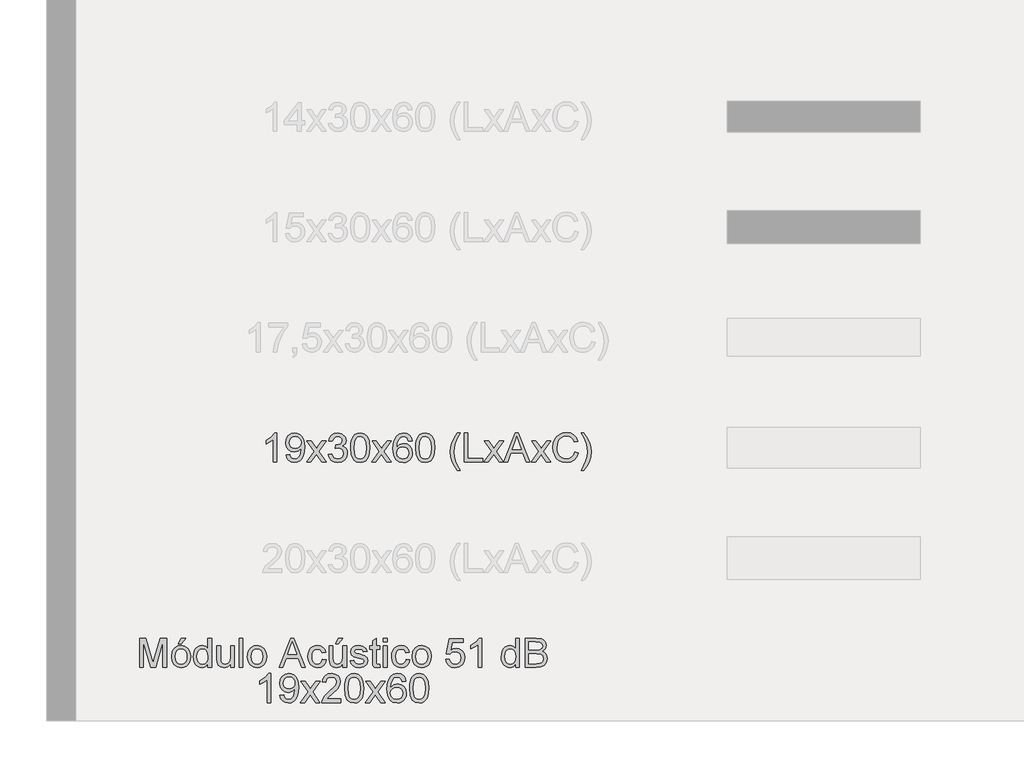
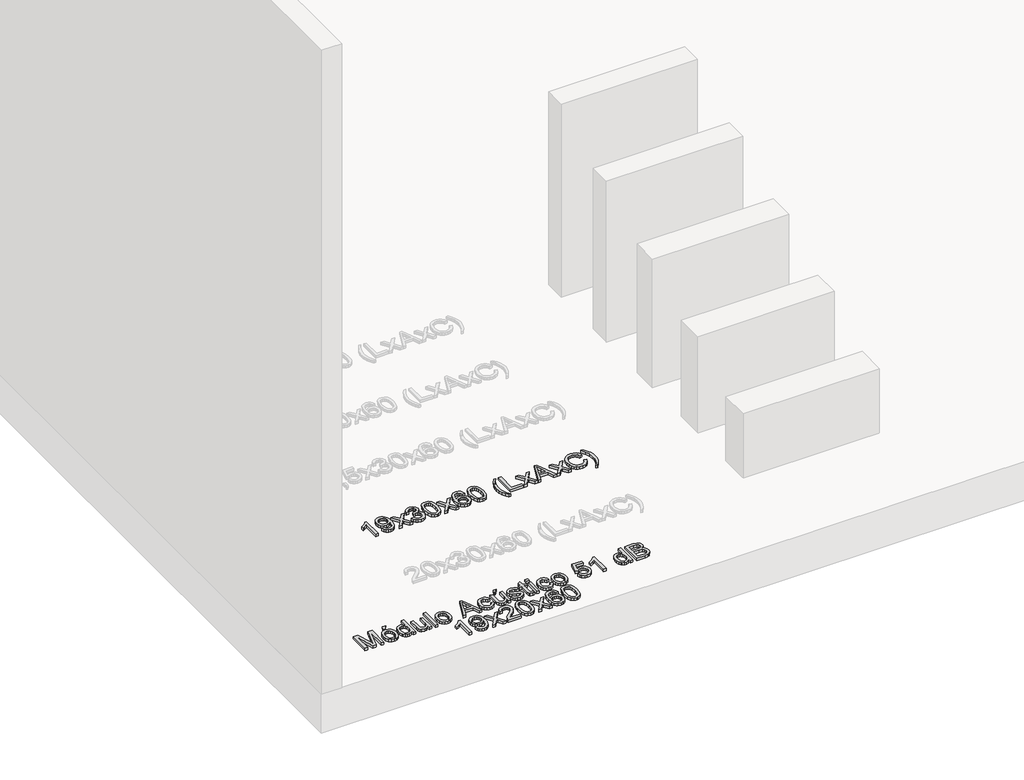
# One storey, part 12 of 26: 2 proxies.
"""IFC4 building model written with IfcOpenShell, lengths in millimetres."""

from ifc_helpers import new_model, si_unit, origin, origin_with_axes, place, context, project, spatial, polyline, outline, extrude, element, save

model = new_model("IFC4")

# Units and contexts
model_context = context("Model", 3, world=origin())
ifc_project = project(units=[si_unit("LENGTHUNIT", "METRE", prefix="MILLI")], contexts=[model_context])

# Site, building, storey
site = spatial("IfcSite", under=ifc_project)
building = spatial("IfcBuilding", under=site)
storey = spatial("IfcBuildingStorey", under=building, Name="Catálogo Celucon", Elevation=0.0)

# Proxies
placement = place(None, origin())
element("IfcBuildingElementProxy", 1, Name="Legenda Tabela de Módulos", ObjectType="Legenda Tabela de Módulos", at=placement, inside=storey, context=model_context, shape_type="SweptSolid", body=[
    extrude(outline(polyline([(8135.1639541, -4586.8143829), (8116.3283959, -4586.8143829), (8116.3283959, -4469.3864501), (8098.4861191, -4482.096773), (8078.6572796, -4491.6065226), (8078.6572796, -4473.801034), (8106.2668233, -4456.1794865), (8123.0238482, -4436.1299177), (8135.1639541, -4436.1299177), (8135.1639541, -4586.8143829)])), origin_with_axes(), (0.0, 0.0, 1.0), 20.0),
    extrude(outline(polyline([(8182.2528494, -4549.1432666), (8201.0884076, -4546.7888219), (8204.3073751, -4557.4803923), (8209.5496935, -4564.7598573), (8216.6866042, -4568.9399165), (8225.5893485, -4570.3332696), (8240.8380572, -4566.7464201), (8251.1755412, -4557.1630941), (8257.3375647, -4540.7923453), (8260.0598914, -4518.9401548), (8259.9495268, -4515.2613349), (8244.8847591, -4529.5351563), (8224.2281851, -4535.016598), (8207.0526944, -4531.6688719), (8192.7558804, -4521.6256934), (8183.1127736, -4506.1102702), (8179.8984047, -4486.3458101), (8183.2691235, -4465.9283593), (8193.3812798, -4449.9254925), (8208.5702077, -4439.5788114), (8227.1712411, -4436.1299177), (8241.2197347, -4438.0980864), (8254.0082326, -4444.0025924), (8264.7044016, -4453.5491302), (8272.4759088, -4466.4433941), (8277.2077909, -4484.2672768), (8278.785085, -4508.6026708), (8277.2123894, -4534.4049942), (8272.4943029, -4554.3487969), (8264.6722119, -4569.3353896), (8253.7875034, -4580.2660834), (8240.3092268, -4586.9431416), (8224.7064317, -4589.1688277), (8208.6023973, -4586.54307), (8195.7541187, -4578.6657967), (8186.7686009, -4566.0336487), (8182.2528494, -4549.1432666)]), holes=[polyline([(8259.9495268, -4485.9043517), (8257.9169788, -4473.1388464), (8251.8193347, -4463.3163972), (8242.3555704, -4457.0532062), (8230.2246616, -4454.9654759), (8217.6430974, -4457.2141546), (8207.5631307, -4463.9601906), (8200.9412548, -4474.2838791), (8198.7339628, -4487.265515), (8200.8216931, -4498.9043817), (8207.0848841, -4508.1428183), (8216.9165304, -4514.1714845), (8229.7096268, -4516.1810399), (8241.7439666, -4514.1714845), (8251.4330586, -4508.1428183), (8257.8204098, -4498.5640908), (8259.9495268, -4485.9043517)])]), origin_with_axes(), (0.0, 0.0, 1.0), 20.0),
    extrude(outline(polyline([(8288.2028641, -4586.8143829), (8328.4491543, -4531.1906253), (8290.5573088, -4476.1554788), (8313.2188397, -4476.1554788), (8331.5025749, -4502.6429824), (8340.0374372, -4515.1509703), (8347.4318653, -4504.9238508), (8368.2539862, -4476.1554788), (8390.9155171, -4476.1554788), (8351.1106852, -4531.1906253), (8389.4439891, -4586.8143829), (8366.7824582, -4586.8143829), (8343.7162571, -4553.3739096), (8339.4856142, -4547.2670685), (8310.864395, -4586.8143829), (8288.2028641, -4586.8143829)])), origin_with_axes(), (0.0, 0.0, 1.0), 20.0),
    extrude(outline(polyline([(8401.216213, -4546.7888219), (8420.0517711, -4544.4343771), (8424.2686185, -4556.2709803), (8430.4444375, -4564.2632166), (8438.8827308, -4568.8157563), (8449.8870009, -4570.3332696), (8462.799659, -4568.2455392), (8472.769261, -4561.9823483), (8479.1428166, -4552.6381456), (8481.2673351, -4541.3073801), (8479.1612107, -4530.5514303), (8472.8428374, -4521.8280285), (8463.2779056, -4516.0476826), (8451.4321053, -4514.1209007), (8438.2251417, -4516.1810399), (8440.3220691, -4497.3454817), (8443.3387014, -4497.5662109), (8464.7126453, -4492.1583456), (8471.8311619, -4485.2973464), (8474.2040008, -4475.5300794), (8472.4841525, -4467.3952888), (8467.3246075, -4460.7964055), (8459.4519328, -4456.4232083), (8449.5926953, -4454.9654759), (8439.7150638, -4456.4370038), (8431.640054, -4460.8515878), (8425.744745, -4468.2092277), (8422.4062159, -4478.5099236), (8403.5706577, -4476.1554788), (8409.1164788, -4459.2421041), (8418.9849133, -4446.6145546), (8432.4861826, -4438.7510769), (8448.9305077, -4436.1299177), (8471.6472209, -4441.2986597), (8487.5397231, -4455.4253284), (8493.039559, -4474.4264334), (8487.8156346, -4491.7904636), (8472.3645908, -4504.2616632), (8484.1552088, -4509.0257351), (8492.8924062, -4517.1375331), (8498.3002715, -4528.1555988), (8500.1028933, -4541.6384739), (8496.4976497, -4559.9957855), (8485.6819191, -4575.3364647), (8469.3571555, -4585.710737), (8449.2248133, -4589.1688277), (8431.0146546, -4586.2165747), (8416.1890102, -4577.3598157), (8405.8791173, -4563.8125612), (8401.216213, -4546.7888219)])), origin_with_axes(), (0.0, 0.0, 1.0), 20.0),
    extrude(outline(polyline([(8516.5840067, -4512.6861609), (8517.9681627, -4488.5668976), (8522.1206307, -4469.3312678), (8529.000024, -4454.6849658), (8538.5649559, -4444.3336862), (8550.8844042, -4438.1808598), (8566.0273468, -4436.1299177), (8588.0266901, -4440.98596), (8603.2202165, -4454.98387), (8612.0493844, -4477.2775189), (8615.470687, -4512.6861609), (8614.1003265, -4536.6674685), (8609.9892452, -4555.857113), (8603.1512386, -4570.5172106), (8593.6001023, -4580.9098769), (8581.2530629, -4587.10409), (8566.0273468, -4589.1688277), (8546.4560247, -4585.5819783), (8531.5935921, -4574.8214299), (8520.336403, -4549.3364047), (8516.5840067, -4512.6861609)]), holes=[polyline([(8535.4195648, -4512.6493727), (8537.6268568, -4542.2776689), (8544.2487327, -4559.4255684), (8554.1079702, -4567.6063443), (8566.0273468, -4570.3332696), (8577.9467235, -4567.5971472), (8587.8059609, -4559.3887802), (8594.4278368, -4542.2316836), (8596.6351288, -4512.6493727), (8594.5014132, -4483.6878626), (8588.1002665, -4466.4066059), (8578.2594231, -4457.8257584), (8565.8066176, -4454.9654759), (8554.0159997, -4457.4854675), (8544.5430383, -4465.0454425), (8537.7004332, -4483.4027541), (8535.4195648, -4512.6493727)])]), origin_with_axes(), (0.0, 0.0, 1.0), 20.0),
    extrude(outline(polyline([(8624.888466, -4586.8143829), (8665.1347563, -4531.1906253), (8627.2429108, -4476.1554788), (8649.9044417, -4476.1554788), (8668.1881769, -4502.6429824), (8676.7230392, -4515.1509703), (8684.1174673, -4504.9238508), (8704.9395882, -4476.1554788), (8727.6011191, -4476.1554788), (8687.7962872, -4531.1906253), (8726.1295911, -4586.8143829), (8703.4680602, -4586.8143829), (8680.4018591, -4553.3739096), (8676.1712162, -4547.2670685), (8647.5499969, -4586.8143829), (8624.888466, -4586.8143829)])), origin_with_axes(), (0.0, 0.0, 1.0), 20.0),
    extrude(outline(polyline([(8834.4340505, -4476.1554788), (8815.5984923, -4478.5099236), (8808.4615816, -4462.8013624), (8799.9175223, -4456.9244475), (8789.5892353, -4454.9654759), (8772.5930871, -4459.5272126), (8759.7356114, -4476.6521195), (8755.8314637, -4490.6822191), (8754.3829283, -4510.2213515), (8770.9928004, -4495.193372), (8791.5757981, -4490.2821474), (8808.9766164, -4493.6390706), (8823.5815316, -4503.7098402), (8833.4867544, -4519.0965047), (8836.7884953, -4538.4011124), (8835.2341938, -4551.888586), (8830.5712895, -4564.3919753), (8823.1860585, -4574.9961738), (8813.4647768, -4582.7860751), (8801.8489028, -4587.5731396), (8788.7798949, -4589.1688277), (8767.4105495, -4584.9381848), (8750.3914087, -4572.2462559), (8739.2583798, -4549.8422424), (8735.5473702, -4516.4753455), (8739.6676485, -4478.960579), (8752.0284836, -4453.3100069), (8768.9050701, -4440.42494), (8790.7664577, -4436.1299177), (8807.2935563, -4438.7878651), (8820.5281111, -4446.7617074), (8829.7987374, -4459.4260451), (8834.4340505, -4476.1554788)]), holes=[polyline([(8754.3829283, -4538.1068068), (8758.74233, -4554.4223733), (8770.3306128, -4566.2681735), (8787.3083669, -4570.3332696), (8799.7381798, -4568.2271451), (8809.5100453, -4561.9087719), (8815.8422142, -4551.975958), (8817.9529371, -4539.0265118), (8815.8698053, -4526.5966989), (8809.6204099, -4517.119139), (8799.6829975, -4511.1180639), (8786.5358147, -4509.1177056), (8774.1243959, -4511.1180639), (8763.7455251, -4517.119139), (8756.7235775, -4526.3667726), (8754.3829283, -4538.1068068)])]), origin_with_axes(), (0.0, 0.0, 1.0), 20.0),
    extrude(outline(polyline([(8853.2696086, -4512.6861609), (8854.6537646, -4488.5668976), (8858.8062327, -4469.3312678), (8865.685626, -4454.6849658), (8875.2505579, -4444.3336862), (8887.5700062, -4438.1808598), (8902.7129488, -4436.1299177), (8924.7122921, -4440.98596), (8939.9058185, -4454.98387), (8948.7349864, -4477.2775189), (8952.1562889, -4512.6861609), (8950.7859285, -4536.6674685), (8946.6748472, -4555.857113), (8939.8368406, -4570.5172106), (8930.2857043, -4580.9098769), (8917.9386649, -4587.10409), (8902.7129488, -4589.1688277), (8883.1416267, -4585.5819783), (8868.279194, -4574.8214299), (8857.022005, -4549.3364047), (8853.2696086, -4512.6861609)]), holes=[polyline([(8872.1051668, -4512.6493727), (8874.3124588, -4542.2776689), (8880.9343347, -4559.4255684), (8890.7935722, -4567.6063443), (8902.7129488, -4570.3332696), (8914.6323254, -4567.5971472), (8924.4915629, -4559.3887802), (8931.1134388, -4542.2316836), (8933.3207308, -4512.6493727), (8931.1870152, -4483.6878626), (8924.7858685, -4466.4066059), (8914.9450251, -4457.8257584), (8902.4922196, -4454.9654759), (8890.7016017, -4457.4854675), (8881.2286403, -4465.0454425), (8874.3860352, -4483.4027541), (8872.1051668, -4512.6493727)])]), origin_with_axes(), (0.0, 0.0, 1.0), 20.0),
    extrude(outline(polyline([(9069.8785274, -4629.1943888), (9055.2828092, -4608.7125587), (9043.1335064, -4585.0117612), (9034.9389349, -4559.2416274), (9032.2074111, -4532.5517886), (9034.2491562, -4509.1452967), (9040.3743914, -4486.7504802), (9052.5328913, -4461.3850167), (9069.8785274, -4436.1299177), (9084.005196, -4436.1299177), (9066.3836484, -4465.9651475), (9055.788647, -4494.8806723), (9051.0429692, -4532.6621532), (9053.1031084, -4556.8090077), (9059.2835259, -4580.9466651), (9069.5842218, -4605.0751255), (9084.005196, -4629.1943888), (9069.8785274, -4629.1943888)])), origin_with_axes(), (0.0, 0.0, 1.0), 20.0),
    extrude(outline(polyline([(9105.1951989, -4586.8143829), (9105.1951989, -4436.1299177), (9124.0307571, -4436.1299177), (9124.0307571, -4567.9788248), (9199.3729897, -4567.9788248), (9199.3729897, -4586.8143829), (9105.1951989, -4586.8143829)])), origin_with_axes(), (0.0, 0.0, 1.0), 20.0),
    extrude(outline(polyline([(9308.9650361, -4586.8143829), (9369.1137423, -4436.1299177), (9385.1533973, -4436.1299177), (9445.3021035, -4586.8143829), (9425.3996875, -4586.8143829), (9408.146022, -4539.7254876), (9346.0843294, -4539.7254876), (9328.867452, -4586.8143829), (9308.9650361, -4586.8143829)]), holes=[polyline([(9353.0005109, -4520.8899294), (9401.2666287, -4520.8899294), (9387.691783, -4483.8442125), (9377.1335698, -4454.9654759), (9367.7525789, -4480.6068509), (9353.0005109, -4520.8899294)])]), origin_with_axes(), (0.0, 0.0, 1.0), 20.0),
    extrude(outline(polyline([(9206.436324, -4586.8143829), (9246.6826143, -4531.1906253), (9208.7907688, -4476.1554788), (9231.4522997, -4476.1554788), (9249.7360348, -4502.6429824), (9258.2708971, -4515.1509703), (9265.6653252, -4504.9238508), (9286.4874462, -4476.1554788), (9309.1489771, -4476.1554788), (9269.3441452, -4531.1906253), (9307.6774491, -4586.8143829), (9285.0159182, -4586.8143829), (9261.9497171, -4553.3739096), (9257.7190741, -4547.2670685), (9229.0978549, -4586.8143829), (9206.436324, -4586.8143829)])), origin_with_axes(), (0.0, 0.0, 1.0), 20.0),
    extrude(outline(polyline([(9451.29858, -4586.8143829), (9491.5448703, -4531.1906253), (9453.6530248, -4476.1554788), (9476.3145557, -4476.1554788), (9494.5982908, -4502.6429824), (9503.1331531, -4515.1509703), (9510.5275812, -4504.9238508), (9531.3497022, -4476.1554788), (9554.0112331, -4476.1554788), (9514.2064012, -4531.1906253), (9552.5397051, -4586.8143829), (9529.8781742, -4586.8143829), (9506.8119731, -4553.3739096), (9502.5813301, -4547.2670685), (9473.9601109, -4586.8143829), (9451.29858, -4586.8143829)])), origin_with_axes(), (0.0, 0.0, 1.0), 20.0),
    extrude(outline(polyline([(9677.3252778, -4533.2507644), (9696.160836, -4538.1068068), (9687.4696239, -4560.0555663), (9673.8303989, -4576.0906228), (9655.9145457, -4585.8992765), (9634.393449, -4589.1688277), (9612.545857, -4586.6948213), (9595.1956224, -4579.272802), (9581.8966883, -4567.1602873), (9572.2029977, -4550.6147946), (9566.2846961, -4531.1630341), (9564.3119289, -4510.3317161), (9566.5422135, -4488.359964), (9573.2330673, -4469.3864501), (9584.0350024, -4454.0135812), (9598.5985309, -4442.8437641), (9615.8705905, -4436.0425457), (9634.7981192, -4433.7754729), (9655.4500947, -4436.7093319), (9672.5244178, -4445.5109086), (9685.4876596, -4459.6375772), (9693.8063912, -4478.5467118), (9674.9708331, -4483.0348721), (9668.4409277, -4469.2990781), (9659.5197893, -4459.8767005), (9648.0970533, -4454.4274484), (9634.0623552, -4452.6110311), (9617.8847445, -4454.625185), (9604.5950074, -4460.6676468), (9594.5104422, -4470.10382), (9587.9483471, -4482.2991081), (9583.1474871, -4510.2949279), (9584.5684313, -4527.6957463), (9588.8312639, -4542.7421199), (9596.0969333, -4554.8592331), (9606.5263879, -4563.4722703), (9619.0297772, -4568.6180198), (9632.5172508, -4570.3332696), (9648.2396076, -4567.9972189), (9661.3408051, -4560.9890669), (9671.2322323, -4549.3823899), (9677.3252778, -4533.2507644)])), origin_with_axes(), (0.0, 0.0, 1.0), 20.0),
    extrude(outline(polyline([(9724.4141732, -4629.1943888), (9710.2875046, -4629.1943888), (9724.7084788, -4605.0751255), (9735.0091747, -4580.9466651), (9741.1895922, -4556.8090077), (9743.2497314, -4532.6621532), (9738.5040536, -4495.2117661), (9728.0194168, -4466.2594531), (9710.2875046, -4436.1299177), (9724.4141732, -4436.1299177), (9741.7598093, -4461.3850167), (9753.9183092, -4486.7504802), (9760.0435445, -4509.1452967), (9762.0852895, -4532.5517886), (9759.3399701, -4559.2416274), (9751.104012, -4585.0117612), (9738.9409135, -4608.7125587), (9724.4141732, -4629.1943888)])), origin_with_axes(), (0.0, 0.0, 1.0), 20.0),
])
element("IfcBuildingElementProxy", 2, Name="Legenda Tabela de Módulos", ObjectType="Legenda Tabela de Módulos", at=placement, inside=storey, context=model_context, shape_type="SweptSolid", body=[
    extrude(outline(polyline([(7424.4028056, -5649.6715258), (7424.4028056, -5498.9870606), (7456.8132094, -5498.9870606), (7487.6417206, -5605.1945926), (7493.8589263, -5627.3778769), (7500.5911668, -5603.3551826), (7530.9046432, -5498.9870606), (7563.315047, -5498.9870606), (7563.315047, -5649.6715258), (7544.4794888, -5649.6715258), (7544.4794888, -5517.8226187), (7506.6244315, -5649.6715258), (7481.0934211, -5649.6715258), (7443.2383638, -5517.8226187), (7443.2383638, -5649.6715258), (7424.4028056, -5649.6715258)])), origin_with_axes(), (0.0, 0.0, 1.0), 20.0),
    extrude(outline(polyline([(7589.2139394, -5594.3420737), (7593.2882325, -5567.661432), (7605.5111118, -5548.9086473), (7620.6126677, -5539.7207945), (7638.6940678, -5536.6581769), (7658.4815206, -5540.3875806), (7674.2866508, -5551.5757918), (7684.6471275, -5569.3398936), (7688.1006197, -5592.7969693), (7686.5739095, -5611.8256655), (7681.9937786, -5626.3110191), (7674.4935845, -5637.1589394), (7664.2066842, -5645.275336), (7651.9884034, -5650.3383119), (7638.6940678, -5652.0259706), (7618.6674917, -5648.3103624), (7602.8807556, -5637.163538), (7592.6306435, -5619.0269556), (7589.2139394, -5594.3420737)]), holes=[polyline([(7608.0494976, -5594.3052855), (7610.2291984, -5611.3520175), (7616.7683009, -5623.4967218), (7626.6091443, -5630.7669898), (7638.6940678, -5633.1904124), (7650.723809, -5630.7531942), (7660.5462583, -5623.4415395), (7667.0853608, -5611.1358868), (7669.2650616, -5593.7166743), (7667.0715652, -5577.1665831), (7660.491076, -5565.1874256), (7650.6548312, -5557.9171577), (7638.6940678, -5555.493735), (7626.6091443, -5557.9079606), (7616.7683009, -5565.1506374), (7610.2291984, -5577.2677506), (7608.0494976, -5594.3052855)])]), origin_with_axes(), (0.0, 0.0, 1.0), 20.0),
    extrude(outline(polyline([(7624.530611, -5527.2403978), (7638.6572796, -5498.9870606), (7662.2017273, -5498.9870606), (7638.6572796, -5527.2403978), (7624.530611, -5527.2403978)])), origin_with_axes(), (0.0, 0.0, 1.0), 20.0),
    extrude(outline(polyline([(7777.569521, -5649.6715258), (7777.569521, -5631.9028254), (7765.1075184, -5646.9951843), (7747.881444, -5652.0259706), (7735.7045499, -5650.2049547), (7724.5577255, -5644.7419071), (7715.1215523, -5636.0185052), (7708.0766121, -5624.4164268), (7703.6896193, -5610.4047213), (7702.2272884, -5594.4524383), (7707.6167596, -5564.4700557), (7714.3490001, -5552.5782702), (7723.7667792, -5543.8318758), (7735.1573255, -5538.4516016), (7747.8078676, -5536.6581769), (7765.1718977, -5541.7901307), (7777.569521, -5555.125853), (7777.569521, -5498.9870606), (7796.4050791, -5498.9870606), (7796.4050791, -5649.6715258), (7777.569521, -5649.6715258)]), holes=[polyline([(7721.0628465, -5594.3788619), (7723.187365, -5611.4163968), (7729.5609206, -5623.53351), (7738.8223498, -5630.7761868), (7749.6104893, -5633.1904124), (7760.3940303, -5630.8865514), (7769.4209348, -5623.9749684), (7775.5323744, -5612.3269048), (7777.569521, -5595.8136017), (7775.4955862, -5577.7597928), (7769.273782, -5565.2426079), (7760.0169513, -5557.9309532), (7748.8379372, -5555.493735), (7737.939433, -5557.8343842), (7729.0090976, -5564.8563318), (7723.0494093, -5576.9182627), (7721.0628465, -5594.3788619)])]), origin_with_axes(), (0.0, 0.0, 1.0), 20.0),
    extrude(outline(polyline([(7895.2917594, -5649.6715258), (7895.2917594, -5630.6520266), (7880.5396914, -5646.6824846), (7861.2994631, -5652.0259706), (7843.585945, -5648.2735742), (7831.3722628, -5638.8557951), (7825.7620623, -5624.9866439), (7824.6584164, -5607.4754609), (7824.6584164, -5539.0126216), (7843.4939745, -5539.0126216), (7843.4939745, -5598.6095049), (7844.6344087, -5617.812945), (7852.0840191, -5629.0885282), (7866.1187172, -5633.1904124), (7881.8456725, -5628.9965577), (7892.2383389, -5617.5738217), (7895.2917594, -5596.5861539), (7895.2917594, -5539.0126216), (7914.1273176, -5539.0126216), (7914.1273176, -5649.6715258), (7895.2917594, -5649.6715258)])), origin_with_axes(), (0.0, 0.0, 1.0), 20.0),
    extrude(outline(polyline([(7940.02621, -5649.6715258), (7940.02621, -5498.9870606), (7958.8617682, -5498.9870606), (7958.8617682, -5649.6715258), (7940.02621, -5649.6715258)])), origin_with_axes(), (0.0, 0.0, 1.0), 20.0),
    extrude(outline(polyline([(7982.4062159, -5594.3420737), (7986.480509, -5567.661432), (7998.7033883, -5548.9086473), (8013.8049442, -5539.7207945), (8031.8863442, -5536.6581769), (8051.6737971, -5540.3875806), (8067.4789273, -5551.5757918), (8077.839404, -5569.3398936), (8081.2928962, -5592.7969693), (8079.7661859, -5611.8256655), (8075.1860551, -5626.3110191), (8067.6858609, -5637.1589394), (8057.3989606, -5645.275336), (8045.1806798, -5650.3383119), (8031.8863442, -5652.0259706), (8011.8597681, -5648.3103624), (7996.073032, -5637.163538), (7985.8229199, -5619.0269556), (7982.4062159, -5594.3420737)]), holes=[polyline([(8001.241774, -5594.3052855), (8003.4214749, -5611.3520175), (8009.9605773, -5623.4967218), (8019.8014207, -5630.7669898), (8031.8863442, -5633.1904124), (8043.9160855, -5630.7531942), (8053.7385348, -5623.4415395), (8060.2776372, -5611.1358868), (8062.457338, -5593.7166743), (8060.2638416, -5577.1665831), (8053.6833525, -5565.1874256), (8043.8471076, -5557.9171577), (8031.8863442, -5555.493735), (8019.8014207, -5557.9079606), (8009.9605773, -5565.1506374), (8003.4214749, -5577.2677506), (8001.241774, -5594.3052855)])]), origin_with_axes(), (0.0, 0.0, 1.0), 20.0),
    extrude(outline(polyline([(8146.1504919, -5649.6715258), (8206.2991982, -5498.9870606), (8222.3388531, -5498.9870606), (8282.4875594, -5649.6715258), (8262.5851434, -5649.6715258), (8245.3314778, -5602.5826304), (8183.2697853, -5602.5826304), (8166.0529079, -5649.6715258), (8146.1504919, -5649.6715258)]), holes=[polyline([(8190.1859668, -5583.7470723), (8238.4520845, -5583.7470723), (8224.8772389, -5546.7013553), (8214.3190257, -5517.8226187), (8204.9380348, -5543.4639938), (8190.1859668, -5583.7470723)])]), origin_with_axes(), (0.0, 0.0, 1.0), 20.0),
    extrude(outline(polyline([(8370.8896028, -5609.6459647), (8389.725161, -5612.0004095), (8384.4736455, -5628.7528358), (8374.6052109, -5641.412575), (8361.0487594, -5649.3726217), (8344.7331929, -5652.0259706), (8324.6974198, -5648.324158), (8309.0302453, -5637.2187203), (8298.918089, -5619.197101), (8295.5473702, -5594.7467439), (8296.9867085, -5577.9851205), (8301.3047234, -5563.4583802), (8308.5703928, -5551.7275431), (8318.8526946, -5543.3536292), (8331.1537488, -5538.33204), (8344.4756755, -5536.6581769), (8360.3911704, -5538.9574393), (8373.1152889, -5545.8552268), (8382.2433609, -5556.9836571), (8387.3707162, -5571.9748484), (8368.535158, -5574.3292932), (8359.7979606, -5560.2210187), (8344.6228283, -5555.493735), (8332.4505328, -5557.8205886), (8322.7890319, -5564.8011495), (8316.4844542, -5576.8124967), (8314.3829283, -5594.2317091), (8316.438469, -5611.8854464), (8322.6050909, -5623.9381802), (8332.0918479, -5630.8773544), (8344.1077935, -5633.1904124), (8353.8612649, -5631.7464756), (8361.8580998, -5627.4146651), (8367.6752339, -5620.0846163), (8370.8896028, -5609.6459647)])), origin_with_axes(), (0.0, 0.0, 1.0), 20.0),
    extrude(outline(polyline([(8476.8396174, -5649.6715258), (8476.8396174, -5630.6520266), (8462.0875494, -5646.6824846), (8442.8473211, -5652.0259706), (8425.133803, -5648.2735742), (8412.9201207, -5638.8557951), (8407.3099203, -5624.9866439), (8406.2062743, -5607.4754609), (8406.2062743, -5539.0126216), (8425.0418325, -5539.0126216), (8425.0418325, -5598.6095049), (8426.1822667, -5617.812945), (8433.6318771, -5629.0885282), (8447.6665752, -5633.1904124), (8463.3935305, -5628.9965577), (8473.7861968, -5617.5738217), (8476.8396174, -5596.5861539), (8476.8396174, -5539.0126216), (8495.6751756, -5539.0126216), (8495.6751756, -5649.6715258), (8476.8396174, -5649.6715258)])), origin_with_axes(), (0.0, 0.0, 1.0), 20.0),
    extrude(outline(polyline([(8439.1685011, -5527.2403978), (8453.2951697, -5498.9870606), (8476.8396174, -5498.9870606), (8453.2951697, -5527.2403978), (8439.1685011, -5527.2403978)])), origin_with_axes(), (0.0, 0.0, 1.0), 20.0),
    extrude(outline(polyline([(8514.5107337, -5616.709299), (8533.3462919, -5614.3548543), (8536.316939, -5622.41147), (8542.0650952, -5628.3343701), (8562.0410875, -5633.1904124), (8581.2445276, -5628.7390403), (8587.4985216, -5618.2911916), (8585.925826, -5613.4903316), (8581.2077394, -5609.8299057), (8561.8203583, -5604.4588286), (8533.4566565, -5595.2433846), (8521.0774273, -5584.4828362), (8516.8651785, -5569.2893098), (8520.2496928, -5555.2546117), (8529.4835309, -5544.5308516), (8541.4580899, -5538.9574393), (8557.6632917, -5536.6581769), (8580.58234, -5540.3553909), (8595.1504671, -5550.3617812), (8601.6251902, -5567.2659589), (8582.789632, -5569.6204036), (8575.7079036, -5559.2277373), (8559.1348197, -5555.493735), (8541.108602, -5559.0621904), (8535.7007366, -5567.3763235), (8537.9448168, -5572.8577652), (8544.9713629, -5577.0148317), (8561.1949589, -5581.0247455), (8588.8412908, -5589.8907016), (8601.6803725, -5599.93388), (8606.3340797, -5616.3046288), (8600.8710321, -5634.3308466), (8585.1072886, -5647.4090515), (8561.7835701, -5652.0259706), (8542.7916621, -5649.8002845), (8528.9317079, -5643.1232263), (8519.6794757, -5632.0683723), (8514.5107337, -5616.709299)])), origin_with_axes(), (0.0, 0.0, 1.0), 20.0),
    extrude(outline(polyline([(8667.5496437, -5633.9629646), (8669.9040885, -5650.2233488), (8655.8142081, -5652.0259706), (8640.0320705, -5648.8989736), (8632.1593958, -5640.6952051), (8629.8785274, -5619.3212612), (8629.8785274, -5557.8481798), (8615.7518588, -5557.8481798), (8615.7518588, -5539.0126216), (8629.8785274, -5539.0126216), (8629.8785274, -5512.1204478), (8648.7140856, -5501.0471997), (8648.7140856, -5539.0126216), (8667.5496437, -5539.0126216), (8667.5496437, -5557.8481798), (8648.7140856, -5557.8481798), (8648.7140856, -5618.7694382), (8649.7073669, -5628.4815229), (8652.9263344, -5631.9212195), (8659.3458752, -5633.1904124), (8667.5496437, -5633.9629646)])), origin_with_axes(), (0.0, 0.0, 1.0), 20.0),
    extrude(outline(polyline([(8686.3852019, -5517.8226187), (8686.3852019, -5498.9870606), (8705.22076, -5498.9870606), (8705.22076, -5517.8226187), (8686.3852019, -5517.8226187)])), origin_with_axes(), (0.0, 0.0, 1.0), 20.0),
    extrude(outline(polyline([(8686.3852019, -5649.6715258), (8686.3852019, -5539.0126216), (8705.22076, -5539.0126216), (8705.22076, -5649.6715258), (8686.3852019, -5649.6715258)])), origin_with_axes(), (0.0, 0.0, 1.0), 20.0),
    extrude(outline(polyline([(8804.1074403, -5609.6459647), (8822.9429985, -5612.0004095), (8817.691483, -5628.7528358), (8807.8230485, -5641.412575), (8794.2665969, -5649.3726217), (8777.9510305, -5652.0259706), (8757.9152573, -5648.324158), (8742.2480828, -5637.2187203), (8732.1359265, -5619.197101), (8728.7652077, -5594.7467439), (8730.204546, -5577.9851205), (8734.5225609, -5563.4583802), (8741.7882303, -5551.7275431), (8752.0705321, -5543.3536292), (8764.3715863, -5538.33204), (8777.6935131, -5536.6581769), (8793.6090079, -5538.9574393), (8806.3331264, -5545.8552268), (8815.4611984, -5556.9836571), (8820.5885537, -5571.9748484), (8801.7529955, -5574.3292932), (8793.0157982, -5560.2210187), (8777.8406659, -5555.493735), (8765.6683703, -5557.8205886), (8756.0068694, -5564.8011495), (8749.7022918, -5576.8124967), (8747.6007659, -5594.2317091), (8749.6563065, -5611.8854464), (8755.8229285, -5623.9381802), (8765.3096854, -5630.8773544), (8777.3256311, -5633.1904124), (8787.0791025, -5631.7464756), (8795.0759373, -5627.4146651), (8800.8930714, -5620.0846163), (8804.1074403, -5609.6459647)])), origin_with_axes(), (0.0, 0.0, 1.0), 20.0),
    extrude(outline(polyline([(8834.7152223, -5594.3420737), (8838.7895154, -5567.661432), (8851.0123947, -5548.9086473), (8866.1139506, -5539.7207945), (8884.1953507, -5536.6581769), (8903.9828035, -5540.3875806), (8919.7879337, -5551.5757918), (8930.1484104, -5569.3398936), (8933.6019026, -5592.7969693), (8932.0751923, -5611.8256655), (8927.4950615, -5626.3110191), (8919.9948673, -5637.1589394), (8909.707967, -5645.275336), (8897.4896863, -5650.3383119), (8884.1953507, -5652.0259706), (8864.1687746, -5648.3103624), (8848.3820384, -5637.163538), (8838.1319263, -5619.0269556), (8834.7152223, -5594.3420737)]), holes=[polyline([(8853.5507805, -5594.3052855), (8855.7304813, -5611.3520175), (8862.2695838, -5623.4967218), (8872.1104271, -5630.7669898), (8884.1953507, -5633.1904124), (8896.2250919, -5630.7531942), (8906.0475412, -5623.4415395), (8912.5866436, -5611.1358868), (8914.7663445, -5593.7166743), (8912.5728481, -5577.1665831), (8905.9923589, -5565.1874256), (8896.156114, -5557.9171577), (8884.1953507, -5555.493735), (8872.1104271, -5557.9079606), (8862.2695838, -5565.1506374), (8855.7304813, -5577.2677506), (8853.5507805, -5594.3052855)])]), origin_with_axes(), (0.0, 0.0, 1.0), 20.0),
    extrude(outline(polyline([(9008.9441352, -5609.6459647), (9027.7796934, -5607.29152), (9031.2377841, -5618.5992928), (9037.2710489, -5626.6972952), (9045.8518964, -5631.5671331), (9056.9527356, -5633.1904124), (9070.4540048, -5630.9325367), (9080.5707597, -5624.1589094), (9086.889133, -5613.6512799), (9088.9952574, -5600.1913974), (9087.0224902, -5587.5178627), (9081.1041886, -5577.8241721), (9071.1943673, -5571.6713458), (9057.2470412, -5569.6204036), (9040.7107455, -5572.8945534), (9030.1341382, -5581.3926275), (9011.29858, -5579.0381827), (9027.7796934, -5501.3415053), (9100.7674812, -5501.3415053), (9100.7674812, -5520.1770635), (9043.010008, -5520.1770635), (9034.9533923, -5561.6741525), (9048.4086763, -5553.5071723), (9062.5077537, -5550.7848455), (9080.1063087, -5554.1601628), (9094.7158224, -5564.2861147), (9104.5520673, -5579.7187644), (9107.8308155, -5599.0141751), (9104.8785625, -5617.8497332), (9096.0218035, -5633.9629646), (9079.0624435, -5647.5102191), (9056.8791592, -5652.0259706), (9038.3792934, -5649.1243013), (9023.6410209, -5640.4192936), (9013.5380616, -5626.9226229), (9008.9441352, -5609.6459647)])), origin_with_axes(), (0.0, 0.0, 1.0), 20.0),
    extrude(outline(polyline([(9194.945272, -5649.6715258), (9176.1097138, -5649.6715258), (9176.1097138, -5532.2435929), (9158.2674371, -5544.9539159), (9138.4385975, -5554.4636654), (9138.4385975, -5536.6581769), (9166.0481413, -5519.0366293), (9182.8051662, -5498.9870606), (9194.945272, -5498.9870606), (9194.945272, -5649.6715258)])), origin_with_axes(), (0.0, 0.0, 1.0), 20.0),
    extrude(outline(polyline([(9371.5286297, -5649.6715258), (9371.5286297, -5631.9028254), (9359.0666271, -5646.9951843), (9341.8405527, -5652.0259706), (9329.6636586, -5650.2049547), (9318.5168342, -5644.7419071), (9309.080661, -5636.0185052), (9302.0357208, -5624.4164268), (9297.648728, -5610.4047213), (9296.1863971, -5594.4524383), (9301.5758683, -5564.4700557), (9308.3081088, -5552.5782702), (9317.7258879, -5543.8318758), (9329.1164342, -5538.4516016), (9341.7669763, -5536.6581769), (9359.1310064, -5541.7901307), (9371.5286297, -5555.125853), (9371.5286297, -5498.9870606), (9390.3641878, -5498.9870606), (9390.3641878, -5649.6715258), (9371.5286297, -5649.6715258)]), holes=[polyline([(9315.0219552, -5594.3788619), (9317.1464737, -5611.4163968), (9323.5200293, -5623.53351), (9332.7814585, -5630.7761868), (9343.569598, -5633.1904124), (9354.353139, -5630.8865514), (9363.3800435, -5623.9749684), (9369.4914831, -5612.3269048), (9371.5286297, -5595.8136017), (9369.4546949, -5577.7597928), (9363.2328907, -5565.2426079), (9353.97606, -5557.9309532), (9342.7970459, -5555.493735), (9331.8985417, -5557.8343842), (9322.9682063, -5564.8563318), (9317.008518, -5576.9182627), (9315.0219552, -5594.3788619)])]), origin_with_axes(), (0.0, 0.0, 1.0), 20.0),
    extrude(outline(polyline([(9420.9719698, -5649.6715258), (9420.9719698, -5498.9870606), (9478.4719257, -5498.9870606), (9506.6332924, -5503.4200386), (9516.0970567, -5509.0440346), (9523.2615586, -5517.0500665), (9529.2764292, -5536.3270831), (9524.2180518, -5553.9302366), (9508.9325549, -5567.2659589), (9519.6057313, -5572.8393711), (9527.4922015, -5581.3190511), (9532.3620394, -5592.1439788), (9533.9853187, -5604.7531342), (9529.5523407, -5625.005038), (9518.5710632, -5639.4260122), (9502.1819203, -5647.0779577), (9478.0304673, -5649.6715258), (9420.9719698, -5649.6715258)]), holes=[polyline([(9439.807528, -5560.2026246), (9474.2044945, -5560.2026246), (9494.2908515, -5558.5839438), (9506.375775, -5551.61258), (9510.4408711, -5539.3437154), (9506.6516865, -5527.0564568), (9495.7991676, -5519.7907874), (9471.5925324, -5517.8226187), (9439.807528, -5517.8226187), (9439.807528, -5560.2026246)]), polyline([(9439.807528, -5630.8359676), (9478.4351375, -5630.8359676), (9492.4146533, -5630.1002037), (9504.2420594, -5625.9983194), (9512.0779459, -5617.629004), (9515.1497606, -5604.9370752), (9511.544517, -5590.2953718), (9499.8642637, -5581.5581744), (9476.5957275, -5579.0381827), (9439.807528, -5579.0381827), (9439.807528, -5630.8359676)])]), origin_with_axes(), (0.0, 0.0, 1.0), 20.0),
    extrude(outline(polyline([(8103.6601215, -5832.6337526), (8084.8245633, -5832.6337526), (8084.8245633, -5715.2058197), (8066.9822866, -5727.9161426), (8047.153447, -5737.4258922), (8047.153447, -5719.6204036), (8074.7629908, -5701.9988561), (8091.5200157, -5681.9492873), (8103.6601215, -5681.9492873), (8103.6601215, -5832.6337526)])), origin_with_axes(), (0.0, 0.0, 1.0), 20.0),
    extrude(outline(polyline([(8150.7490169, -5794.9626363), (8169.584575, -5792.6081915), (8172.8035425, -5803.299762), (8178.0458609, -5810.579227), (8185.1827716, -5814.7592861), (8194.0855159, -5816.1526392), (8209.3342246, -5812.5657897), (8219.6717087, -5802.9824638), (8225.8337321, -5786.611715), (8228.5560589, -5764.7595245), (8228.4456943, -5761.0807045), (8213.3809266, -5775.3545259), (8192.7243525, -5780.8359676), (8175.5488619, -5777.4882415), (8161.2520478, -5767.445063), (8151.608941, -5751.9296399), (8148.3945721, -5732.1651797), (8151.7652909, -5711.7477289), (8161.8774472, -5695.7448622), (8177.0663751, -5685.398181), (8195.6674085, -5681.9492873), (8209.7159022, -5683.917456), (8222.5044, -5689.821962), (8233.2005691, -5699.3684998), (8240.9720762, -5712.2627637), (8245.7039584, -5730.0866464), (8247.2812524, -5754.4220404), (8245.7085569, -5780.2243638), (8240.9904703, -5800.1681665), (8233.1683794, -5815.1547593), (8222.2836708, -5826.085453), (8208.8053942, -5832.7625113), (8193.2025991, -5834.9881973), (8177.0985648, -5832.3624396), (8164.2502861, -5824.4851664), (8155.2647684, -5811.8530184), (8150.7490169, -5794.9626363)]), holes=[polyline([(8228.4456943, -5731.7237213), (8226.4131462, -5718.9582161), (8220.3155022, -5709.1357668), (8210.8517378, -5702.8725758), (8198.7208291, -5700.7848455), (8186.1392648, -5703.0335242), (8176.0592982, -5709.7795603), (8169.4374222, -5720.1032488), (8167.2301303, -5733.0848847), (8169.3178606, -5744.7237513), (8175.5810516, -5753.9621879), (8185.4126979, -5759.9908541), (8198.2057943, -5762.0004095), (8210.240134, -5759.9908541), (8219.9292261, -5753.9621879), (8226.3165772, -5744.3834604), (8228.4456943, -5731.7237213)])]), origin_with_axes(), (0.0, 0.0, 1.0), 20.0),
    extrude(outline(polyline([(8256.6990315, -5832.6337526), (8296.9453218, -5777.0099949), (8259.0534763, -5721.9748484), (8281.7150072, -5721.9748484), (8299.9987423, -5748.4623521), (8308.5336046, -5760.9703399), (8315.9280327, -5750.7432204), (8336.7501536, -5721.9748484), (8359.4116845, -5721.9748484), (8319.6068527, -5777.0099949), (8357.9401566, -5832.6337526), (8335.2786257, -5832.6337526), (8312.2124246, -5799.1932792), (8307.9817816, -5793.0864381), (8279.3605624, -5832.6337526), (8256.6990315, -5832.6337526)])), origin_with_axes(), (0.0, 0.0, 1.0), 20.0),
    extrude(outline(polyline([(8466.2446159, -5813.7981944), (8466.2446159, -5832.6337526), (8367.3579356, -5832.6337526), (8369.3812866, -5819.6475181), (8380.8224167, -5799.6531317), (8404.4036526, -5777.8193353), (8436.9244209, -5746.4390011), (8443.022065, -5735.6232704), (8445.054613, -5725.1018454), (8443.1370281, -5715.6702707), (8437.3842734, -5707.8297857), (8428.54131, -5702.5460805), (8417.3530988, -5700.7848455), (8405.6038676, -5702.5046938), (8396.4757956, -5707.6642388), (8390.5850851, -5715.8588102), (8388.5479386, -5726.683738), (8369.7123804, -5724.3292932), (8374.2787157, -5706.1099374), (8384.1517487, -5692.8018062), (8398.8164448, -5684.6624171), (8417.757769, -5681.9492873), (8436.837049, -5684.9659197), (8451.4741538, -5694.0158168), (8460.7861668, -5707.5354801), (8463.8901712, -5723.9614112), (8460.542445, -5741.8220821), (8449.4140147, -5760.2897582), (8422.4298703, -5786.0966802), (8400.7616208, -5804.2148684), (8392.2635467, -5813.7981944), (8466.2446159, -5813.7981944)])), origin_with_axes(), (0.0, 0.0, 1.0), 20.0),
    extrude(outline(polyline([(8485.0801741, -5758.5055305), (8486.4643301, -5734.3862672), (8490.6167981, -5715.1506374), (8497.4961914, -5700.5043355), (8507.0611233, -5690.1530558), (8519.3805716, -5684.0002295), (8534.5235143, -5681.9492873), (8556.5228576, -5686.8053297), (8571.716384, -5700.8032396), (8580.5455518, -5723.0968885), (8583.9668544, -5758.5055305), (8582.596494, -5782.4868381), (8578.4854127, -5801.6764827), (8571.6474061, -5816.3365802), (8562.0962698, -5826.7292465), (8549.7492303, -5832.9234596), (8534.5235143, -5834.9881973), (8514.9521921, -5831.4013479), (8500.0897595, -5820.6407995), (8488.8325705, -5795.1557743), (8485.0801741, -5758.5055305)]), holes=[polyline([(8503.9157323, -5758.4687423), (8506.1230242, -5788.0970385), (8512.7449001, -5805.244938), (8522.6041376, -5813.4257139), (8534.5235143, -5816.1526392), (8546.4428909, -5813.4165168), (8556.3021284, -5805.2081498), (8562.9240043, -5788.0510533), (8565.1312963, -5758.4687423), (8562.9975807, -5729.5072323), (8556.596434, -5712.2259755), (8546.7555906, -5703.645128), (8534.3027851, -5700.7848455), (8522.5121671, -5703.3048372), (8513.0392057, -5710.8648122), (8506.1966006, -5729.2221237), (8503.9157323, -5758.4687423)])]), origin_with_axes(), (0.0, 0.0, 1.0), 20.0),
    extrude(outline(polyline([(8593.3846335, -5832.6337526), (8633.6309238, -5777.0099949), (8595.7390783, -5721.9748484), (8618.4006092, -5721.9748484), (8636.6843443, -5748.4623521), (8645.2192066, -5760.9703399), (8652.6136347, -5750.7432204), (8673.4357556, -5721.9748484), (8696.0972865, -5721.9748484), (8656.2924547, -5777.0099949), (8694.6257586, -5832.6337526), (8671.9642277, -5832.6337526), (8648.8980266, -5799.1932792), (8644.6673836, -5793.0864381), (8616.0461644, -5832.6337526), (8593.3846335, -5832.6337526)])), origin_with_axes(), (0.0, 0.0, 1.0), 20.0),
    extrude(outline(polyline([(8802.9302179, -5721.9748484), (8784.0946598, -5724.3292932), (8776.9577491, -5708.620732), (8768.4136897, -5702.7438171), (8758.0854027, -5700.7848455), (8741.0892545, -5705.3465822), (8728.2317788, -5722.4714891), (8724.3276311, -5736.5015887), (8722.8790958, -5756.0407212), (8739.4889679, -5741.0127417), (8760.0719655, -5736.101517), (8777.4727839, -5739.4584402), (8792.0776991, -5749.5292099), (8801.9829218, -5764.9158743), (8805.2846627, -5784.220482), (8803.7303613, -5797.7079556), (8799.067457, -5810.211345), (8791.6822259, -5820.8155435), (8781.9609442, -5828.6054447), (8770.3450702, -5833.3925092), (8757.2760623, -5834.9881973), (8735.9067169, -5830.7575544), (8718.8875761, -5818.0656256), (8707.7545473, -5795.661612), (8704.0435376, -5762.2947151), (8708.163816, -5724.7799486), (8720.524651, -5699.1293765), (8737.4012375, -5686.2443096), (8759.2626251, -5681.9492873), (8775.7897237, -5684.6072348), (8789.0242785, -5692.581077), (8798.2949048, -5705.2454147), (8802.9302179, -5721.9748484)]), holes=[polyline([(8722.8790958, -5783.9261764), (8727.2384974, -5800.2417429), (8738.8267803, -5812.0875431), (8755.8045344, -5816.1526392), (8768.2343473, -5814.0465148), (8778.0062128, -5807.7281415), (8784.3383816, -5797.7953276), (8786.4491045, -5784.8458814), (8784.3659728, -5772.4160685), (8778.1165774, -5762.9385086), (8768.179165, -5756.9374335), (8755.0319822, -5754.9370752), (8742.6205633, -5756.9374335), (8732.2416926, -5762.9385086), (8725.219745, -5772.1861422), (8722.8790958, -5783.9261764)])]), origin_with_axes(), (0.0, 0.0, 1.0), 20.0),
    extrude(outline(polyline([(8821.7657761, -5758.5055305), (8823.1499321, -5734.3862672), (8827.3024001, -5715.1506374), (8834.1817934, -5700.5043355), (8843.7467253, -5690.1530558), (8856.0661736, -5684.0002295), (8871.2091162, -5681.9492873), (8893.2084596, -5686.8053297), (8908.401986, -5700.8032396), (8917.2311538, -5723.0968885), (8920.6524564, -5758.5055305), (8919.282096, -5782.4868381), (8915.1710147, -5801.6764827), (8908.3330081, -5816.3365802), (8898.7818718, -5826.7292465), (8886.4348323, -5832.9234596), (8871.2091162, -5834.9881973), (8851.6377941, -5831.4013479), (8836.7753615, -5820.6407995), (8825.5181724, -5795.1557743), (8821.7657761, -5758.5055305)]), holes=[polyline([(8840.6013342, -5758.4687423), (8842.8086262, -5788.0970385), (8849.4305021, -5805.244938), (8859.2897396, -5813.4257139), (8871.2091162, -5816.1526392), (8883.1284929, -5813.4165168), (8892.9877304, -5805.2081498), (8899.6096063, -5788.0510533), (8901.8168982, -5758.4687423), (8899.6831827, -5729.5072323), (8893.2820359, -5712.2259755), (8883.4411926, -5703.645128), (8870.988387, -5700.7848455), (8859.1977691, -5703.3048372), (8849.7248077, -5710.8648122), (8842.8822026, -5729.2221237), (8840.6013342, -5758.4687423)])]), origin_with_axes(), (0.0, 0.0, 1.0), 20.0),
])

save(model, "model.ifc")
